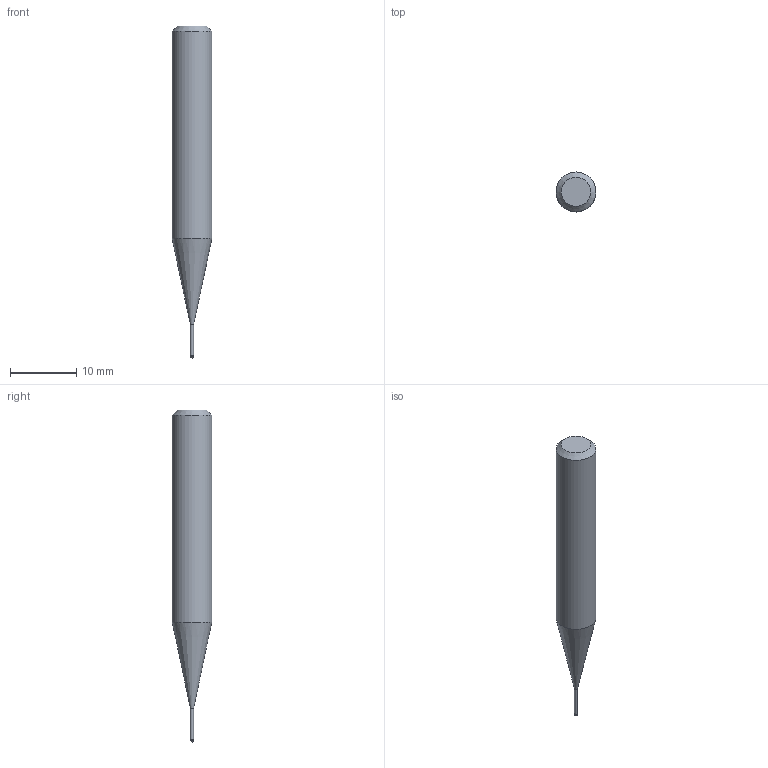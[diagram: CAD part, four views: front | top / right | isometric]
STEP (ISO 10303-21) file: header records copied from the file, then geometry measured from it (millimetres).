
FILE_DESCRIPTION((''),'2;1');
FILE_NAME('C:\Users\nsx150\AppData\Local\Temp\Mastercam 2021\3SYKECWX22\TEMP.step','2021-04-22T10:00:24',(''),(''),'STEP Write','Mastercam 2021 ... CNC Software, Inc.','');
FILE_SCHEMA(('AUTOMOTIVE_DESIGN'));
Length unit declared in the file: millimetre
Products named in the file (1): None
Bounding box: 6 x 6 x 50 mm (x, y, z)
Volume: 1032.2 mm3; surface area: 764 mm2
Topology: 2 solids, 2 shells, 9 faces, 14 edges, 8 vertices
Faces by surface type: plane 3, cylinder 3, cone 2, sphere 1
Full cylindrical faces by diameter (mm): 0.46 x1, 0.5 x1, 6 x1
Entity records: 211 total; most frequent: DIRECTION 36, CARTESIAN_POINT 25, AXIS2_PLACEMENT_3D 18, ORIENTED_EDGE 14, EDGE_LOOP 14, STYLED_ITEM 12, ADVANCED_FACE 9, FACE_BOUND 8
